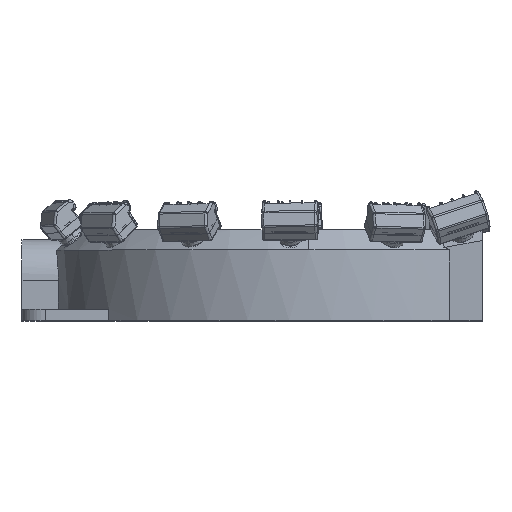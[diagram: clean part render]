
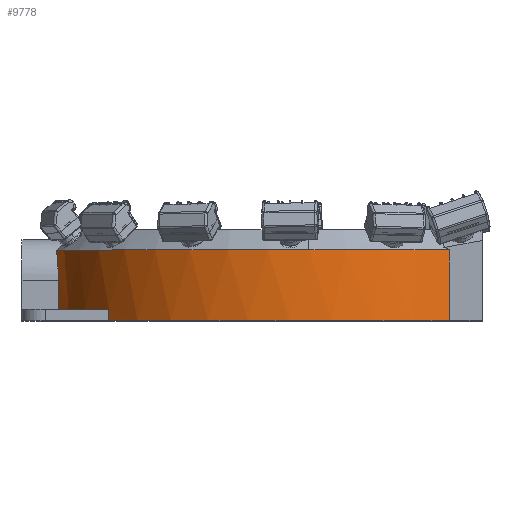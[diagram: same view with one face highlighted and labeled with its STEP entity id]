
A CAD part, top view. The second image highlights one B-rep face of the part: STEP entity #9778.
In plain terms, the highlighted cylindrical face has radius 109.726 mm (diameter 219.452 mm), a partial arc.
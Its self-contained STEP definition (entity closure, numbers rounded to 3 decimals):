
#7599 = CARTESIAN_POINT ( 'NONE',  ( 60.684, 25.491, 91.418 ) ) ;
#7600 = DIRECTION ( 'NONE',  ( 0., 0., -1. ) ) ;
#7601 = DIRECTION ( 'NONE',  ( 0., -1., 0. ) ) ;
#7602 = CARTESIAN_POINT ( 'NONE',  ( 0., 25.491, 0. ) ) ;
#7603 = AXIS2_PLACEMENT_3D ( 'NONE', #7602, #7601, #7600 ) ;
#7604 = CIRCLE ( 'NONE', #7603, 109.726 ) ;
#7605 = CARTESIAN_POINT ( 'NONE',  ( 0., 25.491, 109.726 ) ) ;
#7762 = CIRCLE ( 'NONE', #7839, 109.726 ) ;
#7763 = CARTESIAN_POINT ( 'NONE',  ( -109.098, 25.491, 11.725 ) ) ;
#7836 = DIRECTION ( 'NONE',  ( 0., 0., -1. ) ) ;
#7837 = DIRECTION ( 'NONE',  ( 0., -1., 0. ) ) ;
#7838 = CARTESIAN_POINT ( 'NONE',  ( 0., 25.491, 0. ) ) ;
#7839 = AXIS2_PLACEMENT_3D ( 'NONE', #7838, #7837, #7836 ) ;
#8562 = CARTESIAN_POINT ( 'NONE',  ( -86.507, -5., 67.5 ) ) ;
#8593 = CARTESIAN_POINT ( 'NONE',  ( 60.684, -5., 91.418 ) ) ;
#8594 = DIRECTION ( 'NONE',  ( 0., 0., -1. ) ) ;
#8595 = DIRECTION ( 'NONE',  ( 0., -1., 0. ) ) ;
#8596 = CARTESIAN_POINT ( 'NONE',  ( 0., -5., 0. ) ) ;
#8597 = AXIS2_PLACEMENT_3D ( 'NONE', #8596, #8595, #8594 ) ;
#8598 = CIRCLE ( 'NONE', #8597, 109.726 ) ;
#8630 = CARTESIAN_POINT ( 'NONE',  ( -108.321, 12.5, 17.5 ) ) ;
#8631 = DIRECTION ( 'NONE',  ( 0., -1., 0. ) ) ;
#8632 = VECTOR ( 'NONE', #8631, 1000. ) ;
#8633 = CARTESIAN_POINT ( 'NONE',  ( -108.321, 0., 17.5 ) ) ;
#8634 = LINE ( 'NONE', #8633, #8632 ) ;
#8636 = CARTESIAN_POINT ( 'NONE',  ( -108.321, 0., 17.5 ) ) ;
#9460 = VERTEX_POINT ( 'NONE', #7605 ) ;
#9462 = EDGE_CURVE ( 'NONE', #9463, #9460, #7604, .T. ) ;
#9463 = VERTEX_POINT ( 'NONE', #7599 ) ;
#9504 = VERTEX_POINT ( 'NONE', #7763 ) ;
#9506 = EDGE_CURVE ( 'NONE', #9460, #9504, #7762, .T. ) ;
#9699 = VERTEX_POINT ( 'NONE', #8562 ) ;
#9700 = ORIENTED_EDGE ( 'NONE', *, *, #9701, .F. ) ;
#9701 = EDGE_CURVE ( 'NONE', #9702, #9699, #8598, .T. ) ;
#9702 = VERTEX_POINT ( 'NONE', #8593 ) ;
#9712 = VERTEX_POINT ( 'NONE', #8636 ) ;
#9715 = EDGE_CURVE ( 'NONE', #9716, #9712, #8634, .T. ) ;
#9716 = VERTEX_POINT ( 'NONE', #8630 ) ;
#9761 = ORIENTED_EDGE ( 'NONE', *, *, #9762, .T. ) ;
#9762 = EDGE_CURVE ( 'NONE', #9702, #9463, #11970, .T. ) ;
#9763 = ORIENTED_EDGE ( 'NONE', *, *, #9462, .T. ) ;
#9764 = ORIENTED_EDGE ( 'NONE', *, *, #9506, .T. ) ;
#9765 = ORIENTED_EDGE ( 'NONE', *, *, #9766, .T. ) ;
#9766 = EDGE_CURVE ( 'NONE', #9504, #9716, #11961, .T. ) ;
#9767 = ORIENTED_EDGE ( 'NONE', *, *, #9715, .T. ) ;
#9778 = ADVANCED_FACE ( 'NONE', ( #11987 ), #11984, .T. ) ;
#9779 = EDGE_LOOP ( 'NONE', ( #9780, #9783, #9700, #9761, #9763, #9764, #9765, #9767 ) ) ;
#9780 = ORIENTED_EDGE ( 'NONE', *, *, #9781, .T. ) ;
#9781 = EDGE_CURVE ( 'NONE', #9712, #9782, #12047, .T. ) ;
#9782 = VERTEX_POINT ( 'NONE', #12043 ) ;
#9783 = ORIENTED_EDGE ( 'NONE', *, *, #9784, .T. ) ;
#9784 = EDGE_CURVE ( 'NONE', #9782, #9699, #12042, .T. ) ;
#11959 = CARTESIAN_POINT ( 'NONE',  ( -109.098, 25.491, 11.725 ) ) ;
#11961 = B_SPLINE_CURVE_WITH_KNOTS ( 'NONE', 3,
 ( #11959, #12016, #12015, #12014, #12013, #12012, #12011, #12010, #12009, #12008, #12007, #12006, #12005, #12004 ),
 .UNSPECIFIED., .F., .F.,
 ( 4, 2, 2, 2, 2, 2, 4 ),
 ( 0.013, 0.016, 0.018, 0.02, 0.022, 0.024, 0.027 ),
 .UNSPECIFIED. ) ;
#11962 = DIRECTION ( 'NONE',  ( 0., 1., 0. ) ) ;
#11963 = VECTOR ( 'NONE', #11962, 1000. ) ;
#11964 = CARTESIAN_POINT ( 'NONE',  ( 60.684, 0., 91.418 ) ) ;
#11970 = LINE ( 'NONE', #11964, #11963 ) ;
#11984 = CYLINDRICAL_SURFACE ( 'NONE', #11986, 109.726 ) ;
#11985 = CARTESIAN_POINT ( 'NONE',  ( 0., 0., 0. ) ) ;
#11986 = AXIS2_PLACEMENT_3D ( 'NONE', #12050, #12049, #12048 ) ;
#11987 = FACE_OUTER_BOUND ( 'NONE', #9779, .T. ) ;
#12004 = CARTESIAN_POINT ( 'NONE',  ( -108.321, 12.5, 17.5 ) ) ;
#12005 = CARTESIAN_POINT ( 'NONE',  ( -108.321, 13.733, 17.5 ) ) ;
#12006 = CARTESIAN_POINT ( 'NONE',  ( -108.342, 14.95, 17.371 ) ) ;
#12007 = CARTESIAN_POINT ( 'NONE',  ( -108.403, 16.755, 16.986 ) ) ;
#12008 = CARTESIAN_POINT ( 'NONE',  ( -108.428, 17.348, 16.826 ) ) ;
#12009 = CARTESIAN_POINT ( 'NONE',  ( -108.486, 18.505, 16.449 ) ) ;
#12010 = CARTESIAN_POINT ( 'NONE',  ( -108.519, 19.072, 16.231 ) ) ;
#12011 = CARTESIAN_POINT ( 'NONE',  ( -108.592, 20.18, 15.737 ) ) ;
#12012 = CARTESIAN_POINT ( 'NONE',  ( -108.632, 20.721, 15.461 ) ) ;
#12013 = CARTESIAN_POINT ( 'NONE',  ( -108.717, 21.779, 14.85 ) ) ;
#12014 = CARTESIAN_POINT ( 'NONE',  ( -108.762, 22.297, 14.514 ) ) ;
#12015 = CARTESIAN_POINT ( 'NONE',  ( -108.902, 23.775, 13.439 ) ) ;
#12016 = CARTESIAN_POINT ( 'NONE',  ( -109., 24.675, 12.629 ) ) ;
#12039 = DIRECTION ( 'NONE',  ( 0., -1., 0. ) ) ;
#12040 = VECTOR ( 'NONE', #12039, 1000. ) ;
#12041 = CARTESIAN_POINT ( 'NONE',  ( -86.507, 0., 67.5 ) ) ;
#12042 = LINE ( 'NONE', #12041, #12040 ) ;
#12043 = CARTESIAN_POINT ( 'NONE',  ( -86.507, 0., 67.5 ) ) ;
#12044 = DIRECTION ( 'NONE',  ( 0., 0., -1. ) ) ;
#12045 = DIRECTION ( 'NONE',  ( 0., 1., 0. ) ) ;
#12046 = AXIS2_PLACEMENT_3D ( 'NONE', #11985, #12045, #12044 ) ;
#12047 = CIRCLE ( 'NONE', #12046, 109.726 ) ;
#12048 = DIRECTION ( 'NONE',  ( 0., 0., -1. ) ) ;
#12049 = DIRECTION ( 'NONE',  ( 0., -1., 0. ) ) ;
#12050 = CARTESIAN_POINT ( 'NONE',  ( 0., 0., 0. ) ) ;
